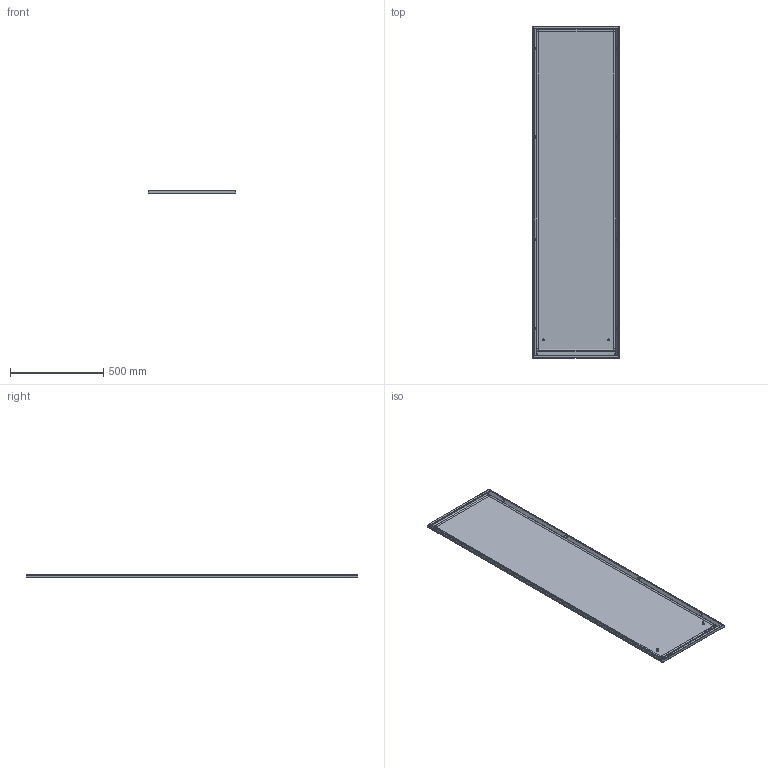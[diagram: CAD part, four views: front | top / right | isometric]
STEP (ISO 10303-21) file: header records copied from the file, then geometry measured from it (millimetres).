
FILE_DESCRIPTION (( 'STEP AP203' ), '1' );
FILE_NAME ('EUFX-050180.STEP', '2018-07-05T09:52:40', ( '' ), ( '' ), 'SwSTEP 2.0', 'SolidWorks 2017', '' );
FILE_SCHEMA (( 'CONFIG_CONTROL_DESIGN' ));
Length unit declared in the file: millimetre
Products named in the file (1): EUFX-050180
Bounding box: 468 x 1778 x 19 mm (x, y, z)
Volume: 1178309.2 mm3; surface area: 2049352.4 mm2
Topology: 1 solids, 1 shells, 254 faces, 685 edges, 414 vertices
Faces by surface type: plane 79, cylinder 75, cone 48, torus 40, sphere 12
Entity records: 8062 total; most frequent: DIRECTION 1483, CARTESIAN_POINT 1403, ORIENTED_EDGE 1346, EDGE_CURVE 673, AXIS2_PLACEMENT_3D 568, VERTEX_POINT 414, VECTOR 347, LINE 347
